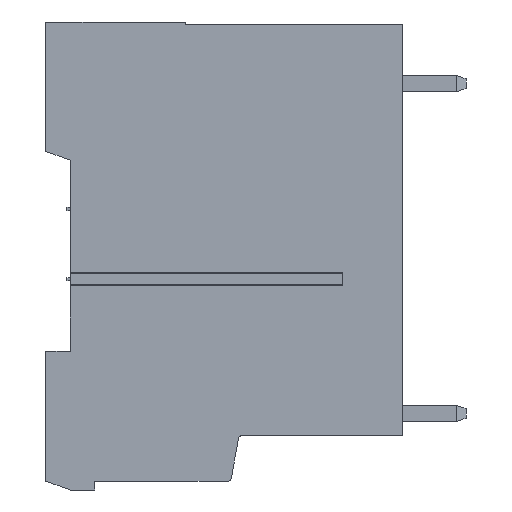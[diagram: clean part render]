
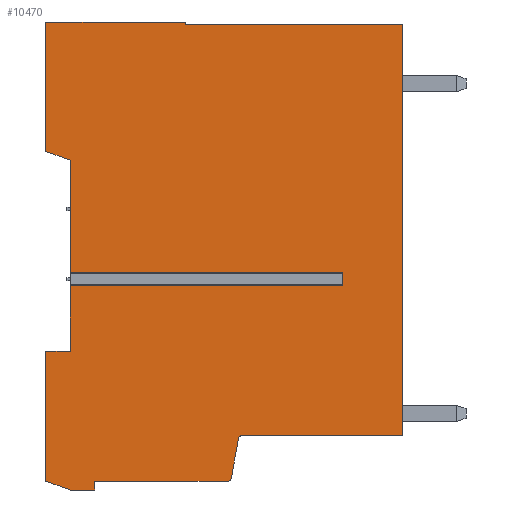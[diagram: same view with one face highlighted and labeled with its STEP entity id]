
A CAD part, left-side view. The second image highlights one B-rep face of the part: STEP entity #10470.
In plain terms, the highlighted planar face has unit normal (-1, 0, 0).
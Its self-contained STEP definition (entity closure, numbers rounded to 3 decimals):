
#530=DIRECTION('',(0.,-1.,0.));
#531=VECTOR('',#530,13.4);
#532=CARTESIAN_POINT('',(18.957,17.3,-2.938));
#533=LINE('',#532,#531);
#1084=DIRECTION('',(0.,1.,0.));
#1085=VECTOR('',#1084,9.933);
#1086=CARTESIAN_POINT('',(18.957,3.9,-28.288));
#1087=LINE('',#1086,#1085);
#1104=DIRECTION('',(0.,1.,0.));
#1105=VECTOR('',#1104,8.233);
#1106=CARTESIAN_POINT('',(18.957,14.667,-31.078));
#1107=LINE('',#1106,#1105);
#1116=DIRECTION('',(0.,0.,-1.));
#1117=VECTOR('',#1116,0.55);
#1118=CARTESIAN_POINT('',(18.957,22.9,-31.078));
#1119=LINE('',#1118,#1117);
#1128=DIRECTION('',(0.,1.,0.));
#1129=VECTOR('',#1128,1.5);
#1130=CARTESIAN_POINT('',(18.957,22.9,-31.628));
#1131=LINE('',#1130,#1129);
#1318=DIRECTION('',(0.,0.,-1.));
#1319=VECTOR('',#1318,4.036);
#1320=CARTESIAN_POINT('',(18.957,24.4,-19.042));
#1321=LINE('',#1320,#1319);
#1322=DIRECTION('',(0.,0.,-1.));
#1323=VECTOR('',#1322,6.926);
#1324=CARTESIAN_POINT('',(18.957,24.4,-11.308));
#1325=LINE('',#1324,#1323);
#1326=DIRECTION('',(0.,-0.939,-0.344));
#1327=VECTOR('',#1326,1.598);
#1328=CARTESIAN_POINT('',(18.957,25.9,-10.758));
#1329=LINE('',#1328,#1327);
#1330=DIRECTION('',(0.,0.,1.));
#1331=VECTOR('',#1330,25.35);
#1332=CARTESIAN_POINT('',(18.957,3.9,-28.288));
#1333=LINE('',#1332,#1331);
#1334=CARTESIAN_POINT('',(18.957,13.833,-28.488));
#1335=DIRECTION('',(1.,0.,0.));
#1336=DIRECTION('',(0.,0.984,0.176));
#1337=AXIS2_PLACEMENT_3D('',#1334,#1335,#1336);
#1339=DIRECTION('',(0.,-0.176,0.984));
#1340=VECTOR('',#1339,2.5);
#1341=CARTESIAN_POINT('',(18.957,14.47,-30.913));
#1342=LINE('',#1341,#1340);
#1343=CARTESIAN_POINT('',(18.957,14.667,-30.878));
#1344=DIRECTION('',(-1.,0.,0.));
#1345=DIRECTION('',(0.,0.,-1.));
#1346=AXIS2_PLACEMENT_3D('',#1343,#1344,#1345);
#1348=DIRECTION('',(0.,-0.939,-0.344));
#1349=VECTOR('',#1348,1.598);
#1350=CARTESIAN_POINT('',(18.957,25.9,-31.078));
#1351=LINE('',#1350,#1349);
#1352=DIRECTION('',(0.,0.,-1.));
#1353=VECTOR('',#1352,8.);
#1354=CARTESIAN_POINT('',(18.957,25.9,-23.078));
#1355=LINE('',#1354,#1353);
#1356=DIRECTION('',(0.,1.,0.));
#1357=VECTOR('',#1356,1.5);
#1358=CARTESIAN_POINT('',(18.957,24.4,-23.078));
#1359=LINE('',#1358,#1357);
#1360=DIRECTION('',(0.,-1.,0.));
#1361=VECTOR('',#1360,16.8);
#1362=CARTESIAN_POINT('',(18.957,24.4,-19.042));
#1363=LINE('',#1362,#1361);
#1407=DIRECTION('',(0.,0.,1.));
#1408=VECTOR('',#1407,0.808);
#1409=CARTESIAN_POINT('',(18.957,7.6,-19.042));
#1410=LINE('',#1409,#1408);
#1428=DIRECTION('',(0.,1.,0.));
#1429=VECTOR('',#1428,16.8);
#1430=CARTESIAN_POINT('',(18.957,7.6,-18.234));
#1431=LINE('',#1430,#1429);
#1436=DIRECTION('',(0.,0.,1.));
#1437=VECTOR('',#1436,7.97);
#1438=CARTESIAN_POINT('',(18.957,25.9,-10.758));
#1439=LINE('',#1438,#1437);
#1452=DIRECTION('',(0.,-1.,0.));
#1453=VECTOR('',#1452,8.6);
#1454=CARTESIAN_POINT('',(18.957,25.9,-2.788));
#1455=LINE('',#1454,#1453);
#1468=DIRECTION('',(0.,0.,-1.));
#1469=VECTOR('',#1468,0.15);
#1470=CARTESIAN_POINT('',(18.957,17.3,-2.788));
#1471=LINE('',#1470,#1469);
#7633=CARTESIAN_POINT('',(18.957,3.9,-28.288));
#7634=CARTESIAN_POINT('',(18.957,3.9,-2.938));
#7635=VERTEX_POINT('',#7633);
#7636=VERTEX_POINT('',#7634);
#7697=CARTESIAN_POINT('',(18.957,25.9,-23.078));
#7698=CARTESIAN_POINT('',(18.957,25.9,-31.078));
#7699=VERTEX_POINT('',#7697);
#7700=VERTEX_POINT('',#7698);
#7709=CARTESIAN_POINT('',(18.957,24.4,-23.078));
#7710=VERTEX_POINT('',#7709);
#7715=CARTESIAN_POINT('',(18.957,24.4,-11.308));
#7716=VERTEX_POINT('',#7715);
#7717=CARTESIAN_POINT('',(18.957,24.4,-18.234));
#7718=VERTEX_POINT('',#7717);
#7731=CARTESIAN_POINT('',(18.957,24.4,-19.042));
#7732=VERTEX_POINT('',#7731);
#7757=CARTESIAN_POINT('',(18.957,25.9,-10.758));
#7758=VERTEX_POINT('',#7757);
#7763=CARTESIAN_POINT('',(18.957,7.6,-19.042));
#7764=VERTEX_POINT('',#7763);
#7765=CARTESIAN_POINT('',(18.957,7.6,-18.234));
#7766=VERTEX_POINT('',#7765);
#7767=CARTESIAN_POINT('',(18.957,25.9,-2.788));
#7768=VERTEX_POINT('',#7767);
#7769=CARTESIAN_POINT('',(18.957,17.3,-2.788));
#7770=VERTEX_POINT('',#7769);
#7771=CARTESIAN_POINT('',(18.957,17.3,-2.938));
#7772=VERTEX_POINT('',#7771);
#7773=CARTESIAN_POINT('',(18.957,13.833,-28.288));
#7774=VERTEX_POINT('',#7773);
#7775=CARTESIAN_POINT('',(18.957,14.03,-28.453));
#7776=VERTEX_POINT('',#7775);
#7777=CARTESIAN_POINT('',(18.957,14.47,-30.913));
#7778=VERTEX_POINT('',#7777);
#7779=CARTESIAN_POINT('',(18.957,14.667,-31.078));
#7780=VERTEX_POINT('',#7779);
#7781=CARTESIAN_POINT('',(18.957,22.9,-31.078));
#7782=VERTEX_POINT('',#7781);
#7783=CARTESIAN_POINT('',(18.957,22.9,-31.628));
#7784=VERTEX_POINT('',#7783);
#7785=CARTESIAN_POINT('',(18.957,24.4,-31.628));
#7786=VERTEX_POINT('',#7785);
#10435=CARTESIAN_POINT('',(18.957,3.9,-35.637));
#10436=DIRECTION('',(1.,0.,0.));
#10437=DIRECTION('',(0.,0.,1.));
#10438=AXIS2_PLACEMENT_3D('',#10435,#10436,#10437);
#10439=PLANE('',#10438);
#10440=ORIENTED_EDGE('',*,*,#8779,.F.);
#10442=ORIENTED_EDGE('',*,*,#10441,.T.);
#10444=ORIENTED_EDGE('',*,*,#10443,.T.);
#10446=ORIENTED_EDGE('',*,*,#10445,.T.);
#10447=ORIENTED_EDGE('',*,*,#8763,.F.);
#10449=ORIENTED_EDGE('',*,*,#10448,.F.);
#10451=ORIENTED_EDGE('',*,*,#10450,.T.);
#10453=ORIENTED_EDGE('',*,*,#10452,.T.);
#10455=ORIENTED_EDGE('',*,*,#10454,.T.);
#10456=ORIENTED_EDGE('',*,*,#9279,.T.);
#10457=ORIENTED_EDGE('',*,*,#10018,.F.);
#10458=ORIENTED_EDGE('',*,*,#10063,.T.);
#10459=ORIENTED_EDGE('',*,*,#10078,.F.);
#10460=ORIENTED_EDGE('',*,*,#10093,.F.);
#10461=ORIENTED_EDGE('',*,*,#10108,.F.);
#10462=ORIENTED_EDGE('',*,*,#10123,.T.);
#10463=ORIENTED_EDGE('',*,*,#10138,.T.);
#10464=ORIENTED_EDGE('',*,*,#10155,.T.);
#10465=ORIENTED_EDGE('',*,*,#10428,.F.);
#10466=ORIENTED_EDGE('',*,*,#8701,.F.);
#10467=ORIENTED_EDGE('',*,*,#8740,.F.);
#10468=EDGE_LOOP('',(#10440,#10442,#10444,#10446,#10447,#10449,#10451,#10453,
#10455,#10456,#10457,#10458,#10459,#10460,#10461,#10462,#10463,#10464,#10465,
#10466,#10467));
#10469=FACE_OUTER_BOUND('',#10468,.F.);
#10470=ADVANCED_FACE('',(#10469),#10439,.F.);
#1338=CIRCLE('',#1337,0.2);
#1347=CIRCLE('',#1346,0.2);
#8701=EDGE_CURVE('',#7699,#7700,#1355,.T.);
#8740=EDGE_CURVE('',#7710,#7699,#1359,.T.);
#8763=EDGE_CURVE('',#7716,#7718,#1325,.T.);
#8779=EDGE_CURVE('',#7732,#7710,#1321,.T.);
#9279=EDGE_CURVE('',#7772,#7636,#533,.T.);
#10018=EDGE_CURVE('',#7635,#7636,#1333,.T.);
#10063=EDGE_CURVE('',#7635,#7774,#1087,.T.);
#10078=EDGE_CURVE('',#7776,#7774,#1338,.T.);
#10093=EDGE_CURVE('',#7778,#7776,#1342,.T.);
#10108=EDGE_CURVE('',#7780,#7778,#1347,.T.);
#10123=EDGE_CURVE('',#7780,#7782,#1107,.T.);
#10138=EDGE_CURVE('',#7782,#7784,#1119,.T.);
#10155=EDGE_CURVE('',#7784,#7786,#1131,.T.);
#10428=EDGE_CURVE('',#7700,#7786,#1351,.T.);
#10441=EDGE_CURVE('',#7732,#7764,#1363,.T.);
#10443=EDGE_CURVE('',#7764,#7766,#1410,.T.);
#10445=EDGE_CURVE('',#7766,#7718,#1431,.T.);
#10448=EDGE_CURVE('',#7758,#7716,#1329,.T.);
#10450=EDGE_CURVE('',#7758,#7768,#1439,.T.);
#10452=EDGE_CURVE('',#7768,#7770,#1455,.T.);
#10454=EDGE_CURVE('',#7770,#7772,#1471,.T.);
